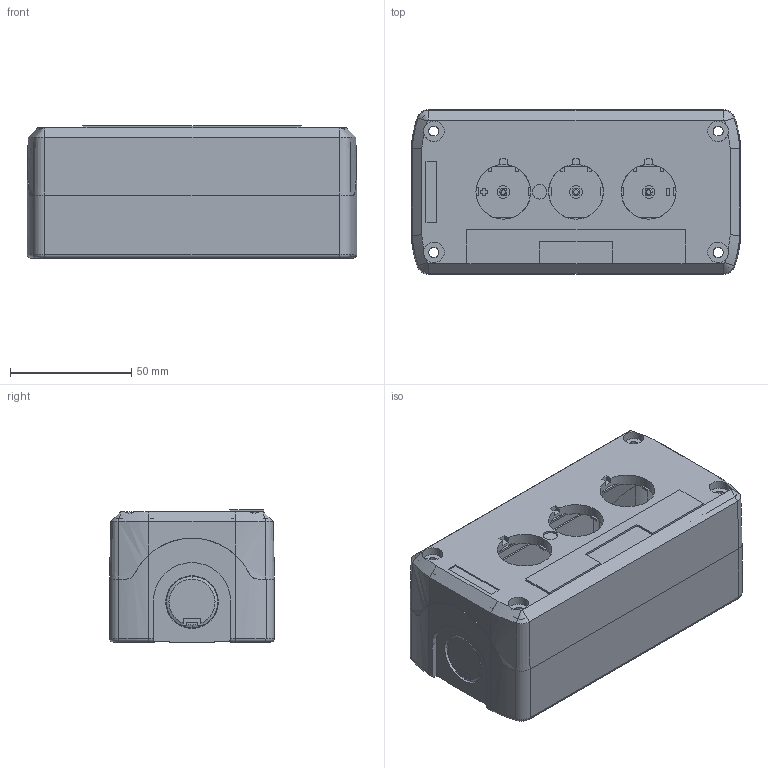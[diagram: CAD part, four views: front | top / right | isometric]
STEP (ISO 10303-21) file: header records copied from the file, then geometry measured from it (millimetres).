
FILE_DESCRIPTION (( 'STEP AP214' ), '1' );
FILE_NAME ('3.STEP', '2023-11-16T12:00:01', ( '' ), ( '' ), 'SwSTEP 2.0', 'SolidWorks 2018', '' );
FILE_SCHEMA (( 'AUTOMOTIVE_DESIGN' ));
Length unit declared in the file: millimetre
Products named in the file (1): 3
Bounding box: 136.1 x 68 x 54.5 mm (x, y, z)
Volume: 117227.6 mm3; surface area: 118973 mm2
Topology: 2 solids, 2 shells, 1460 faces, 3972 edges, 2602 vertices
Faces by surface type: plane 917, cylinder 435, cone 51, torus 32, bspline 25
Entity records: 49106 total; most frequent: CARTESIAN_POINT 12062, ORIENTED_EDGE 7942, DIRECTION 7497, EDGE_CURVE 3971, VECTOR 2603, LINE 2603, VERTEX_POINT 2602, AXIS2_PLACEMENT_3D 2447
